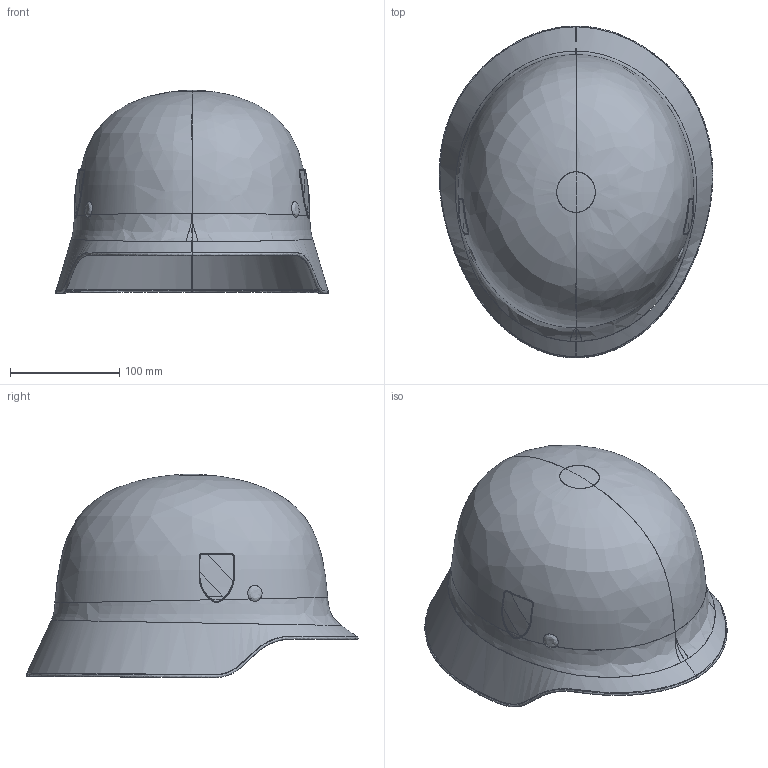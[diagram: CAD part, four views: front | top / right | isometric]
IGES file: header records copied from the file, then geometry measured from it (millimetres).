
Global section: file name: I:\lavori\a_esempi\elmetto\german helmet m40.igs; native system: Rhinoceros ( Mar  9 2011 ); preprocessor: Trout Lake IGES 012 Mar  9 2011; date: 121107.192455; units: millimetre
Bounding box: 250.38 x 303.83 x 186.13 mm (x, y, z)
Surface area: 146181.8 mm2 (no closed solid volume)
Topology: 0 solids, 0 shells, 26 faces, 1692 edges, 1690 vertices
Faces by surface type: bspline 26
